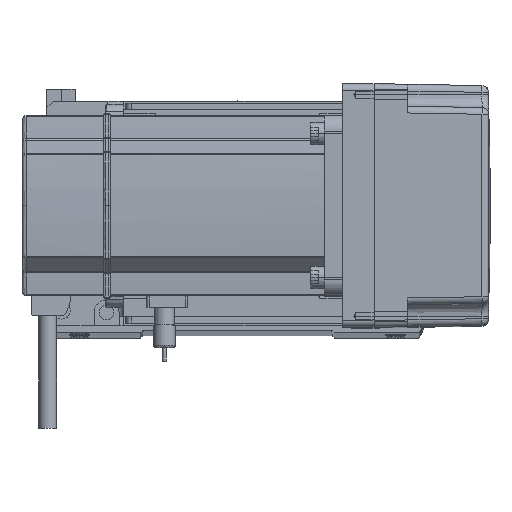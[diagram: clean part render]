
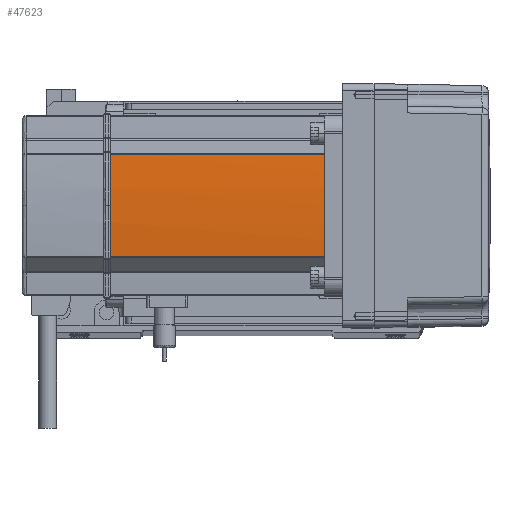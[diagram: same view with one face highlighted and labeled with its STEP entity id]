
A CAD part, top view. The second image highlights one B-rep face of the part: STEP entity #47623.
In plain terms, the highlighted cylindrical face has radius 270 mm (diameter 540 mm), a partial arc.
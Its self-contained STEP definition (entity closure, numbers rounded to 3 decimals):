
#1122 = DIRECTION ( 'NONE',  ( 1., 0., 0. ) ) ;
#6584 = DIRECTION ( 'NONE',  ( 1., 0., 0. ) ) ;
#7162 = DIRECTION ( 'NONE',  ( 0., 0., -1. ) ) ;
#9166 = CARTESIAN_POINT ( 'NONE',  ( 230., 0., 0. ) ) ;
#9567 = DIRECTION ( 'NONE',  ( 1., 0., 0. ) ) ;
#10115 = VERTEX_POINT ( 'NONE', #31506 ) ;
#14056 = EDGE_CURVE ( 'NONE', #28342, #58605, #28692, .T. ) ;
#15168 = CYLINDRICAL_SURFACE ( 'NONE', #43180, 270. ) ;
#15310 = VECTOR ( 'NONE', #39432, 1000. ) ;
#15565 = DIRECTION ( 'NONE',  ( 0., 0., -1. ) ) ;
#16559 = AXIS2_PLACEMENT_3D ( 'NONE', #52191, #7162, #6584 ) ;
#18577 = DIRECTION ( 'NONE',  ( 0., 0., 1. ) ) ;
#19629 = EDGE_CURVE ( 'NONE', #10115, #28342, #47727, .T. ) ;
#23213 = CARTESIAN_POINT ( 'NONE',  ( -39.042, 22.724, 39. ) ) ;
#24070 = ORIENTED_EDGE ( 'NONE', *, *, #40320, .T. ) ;
#24382 = ORIENTED_EDGE ( 'NONE', *, *, #19629, .T. ) ;
#24499 = VERTEX_POINT ( 'NONE', #23213 ) ;
#25637 = CARTESIAN_POINT ( 'NONE',  ( -40., 0., 134. ) ) ;
#25842 = ORIENTED_EDGE ( 'NONE', *, *, #53634, .F. ) ;
#26663 = FACE_OUTER_BOUND ( 'NONE', #49989, .T. ) ;
#26788 = DIRECTION ( 'NONE',  ( 0., 0., -1. ) ) ;
#27003 = AXIS2_PLACEMENT_3D ( 'NONE', #28625, #15565, #1122 ) ;
#28342 = VERTEX_POINT ( 'NONE', #25637 ) ;
#28625 = CARTESIAN_POINT ( 'NONE',  ( 230., 0., 134. ) ) ;
#28692 = CIRCLE ( 'NONE', #27003, 270. ) ;
#31506 = CARTESIAN_POINT ( 'NONE',  ( -39.042, -22.724, 134. ) ) ;
#38443 = AXIS2_PLACEMENT_3D ( 'NONE', #44877, #26788, #41037 ) ;
#38855 = EDGE_CURVE ( 'NONE', #55411, #10115, #50034, .T. ) ;
#39011 = LINE ( 'NONE', #53011, #15310 ) ;
#39432 = DIRECTION ( 'NONE',  ( 0., 0., -1. ) ) ;
#40320 = EDGE_CURVE ( 'NONE', #58605, #24499, #39011, .T. ) ;
#41037 = DIRECTION ( 'NONE',  ( 1., 0., 0. ) ) ;
#41121 = CARTESIAN_POINT ( 'NONE',  ( -39.042, -22.724, 39. ) ) ;
#41826 = CIRCLE ( 'NONE', #16559, 270. ) ;
#43180 = AXIS2_PLACEMENT_3D ( 'NONE', #9166, #18577, #9567 ) ;
#44877 = CARTESIAN_POINT ( 'NONE',  ( 230., 0., 134. ) ) ;
#45828 = ORIENTED_EDGE ( 'NONE', *, *, #38855, .T. ) ;
#46940 = ORIENTED_EDGE ( 'NONE', *, *, #14056, .T. ) ;
#47105 = VECTOR ( 'NONE', #53288, 1000. ) ;
#47623 = ADVANCED_FACE ( 'NONE', ( #26663 ), #15168, .T. ) ;
#47727 = CIRCLE ( 'NONE', #38443, 270. ) ;
#48797 = CARTESIAN_POINT ( 'NONE',  ( -39.042, -22.724, 0. ) ) ;
#49989 = EDGE_LOOP ( 'NONE', ( #24382, #46940, #24070, #25842, #45828 ) ) ;
#50034 = LINE ( 'NONE', #48797, #47105 ) ;
#50927 = CARTESIAN_POINT ( 'NONE',  ( -39.042, 22.724, 134. ) ) ;
#52191 = CARTESIAN_POINT ( 'NONE',  ( 230., 0., 39. ) ) ;
#53011 = CARTESIAN_POINT ( 'NONE',  ( -39.042, 22.724, 0. ) ) ;
#53288 = DIRECTION ( 'NONE',  ( 0., 0., 1. ) ) ;
#53634 = EDGE_CURVE ( 'NONE', #55411, #24499, #41826, .T. ) ;
#55411 = VERTEX_POINT ( 'NONE', #41121 ) ;
#58605 = VERTEX_POINT ( 'NONE', #50927 ) ;
